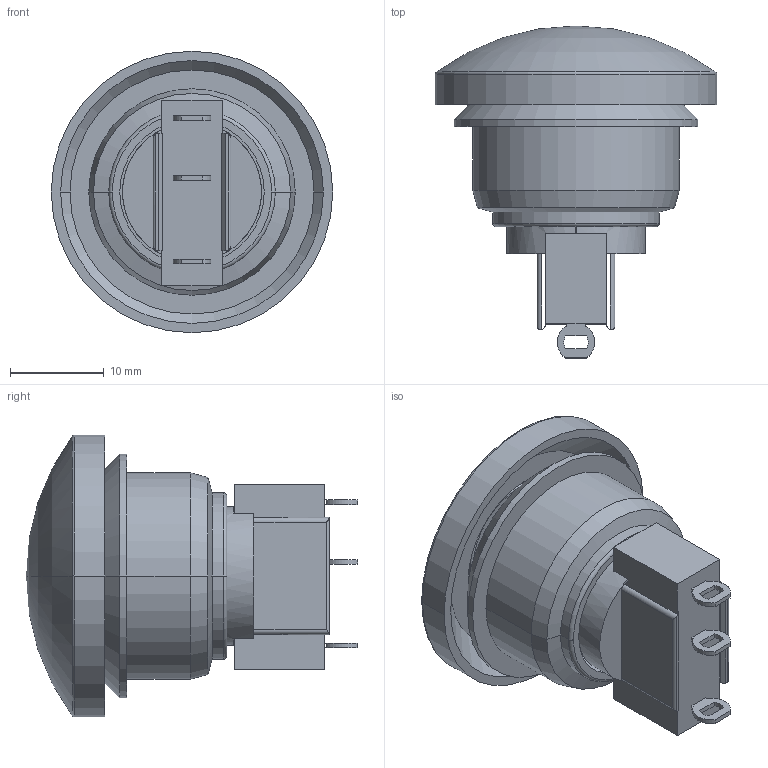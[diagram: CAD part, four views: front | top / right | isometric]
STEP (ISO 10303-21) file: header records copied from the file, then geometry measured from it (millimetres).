
FILE_DESCRIPTION((''),'2;1');
FILE_NAME('AV22PNA_SW0001','2010-10-11T',('jlgachon'),(''),'PRO/ENGINEER BY PARAMETRIC TECHNOLOGY CORPORATION, 2009440','PRO/ENGINEER BY PARAMETRIC TECHNOLOGY CORPORATION, 2009440','');
FILE_SCHEMA(('CONFIG_CONTROL_DESIGN'));
Length unit declared in the file: millimetre
Products named in the file (1): AV22PNA_SW0001
Bounding box: 30 x 35.37 x 30 mm (x, y, z)
Surface area: 5464.8 mm2 (no closed solid volume)
Topology: 0 solids, 6 shells, 101 faces, 292 edges, 199 vertices
Faces by surface type: plane 39, cylinder 36, cone 14, torus 6, bspline 4, sphere 2
Entity records: 5899 total; most frequent: CARTESIAN_POINT 3176, DIRECTION 582, ORIENTED_EDGE 492, EDGE_CURVE 290, AXIS2_PLACEMENT_3D 209, VERTEX_POINT 199, VECTOR 164, LINE 164
